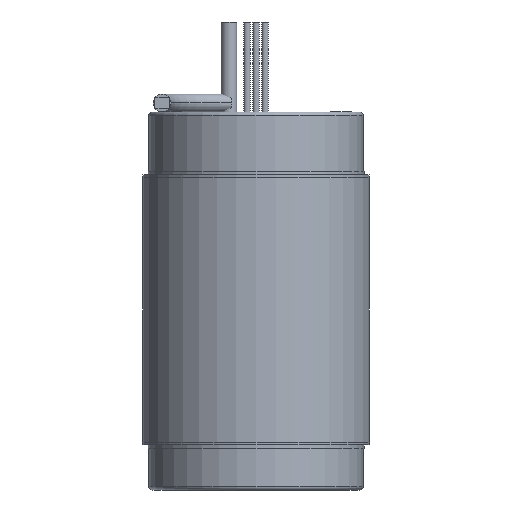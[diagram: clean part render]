
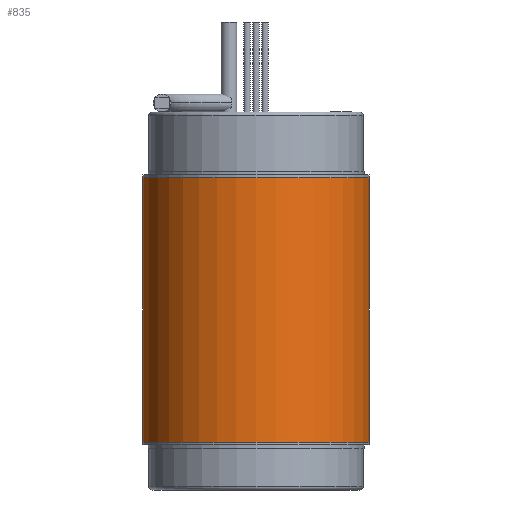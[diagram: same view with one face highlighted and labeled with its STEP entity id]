
A CAD part, front view. The second image highlights one B-rep face of the part: STEP entity #835.
In plain terms, the highlighted cylindrical face has radius 16.002 mm (diameter 32.004 mm), a partial arc.
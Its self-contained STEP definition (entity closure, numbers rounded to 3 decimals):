
#94 = LINE ( 'NONE', #2121, #444 ) ;
#134 = CARTESIAN_POINT ( 'NONE',  ( 0., 0., -19.558 ) ) ;
#168 = FACE_OUTER_BOUND ( 'NONE', #2551, .T. ) ;
#297 = DIRECTION ( 'NONE',  ( 0., 0., 1. ) ) ;
#444 = VECTOR ( 'NONE', #1219, 1000. ) ;
#486 = LINE ( 'NONE', #1669, #2044 ) ;
#517 = EDGE_CURVE ( 'NONE', #593, #2677, #486, .T. ) ;
#557 = EDGE_CURVE ( 'NONE', #2432, #1763, #94, .T. ) ;
#584 = DIRECTION ( 'NONE',  ( 0., 0., 1. ) ) ;
#593 = VERTEX_POINT ( 'NONE', #2386 ) ;
#666 = CIRCLE ( 'NONE', #2940, 16.002 ) ;
#679 = ORIENTED_EDGE ( 'NONE', *, *, #517, .T. ) ;
#746 = ORIENTED_EDGE ( 'NONE', *, *, #2910, .T. ) ;
#835 = ADVANCED_FACE ( 'NONE', ( #168 ), #918, .T. ) ;
#836 = DIRECTION ( 'NONE',  ( 1., 0., 0. ) ) ;
#882 = DIRECTION ( 'NONE',  ( 0., 0., 1. ) ) ;
#909 = DIRECTION ( 'NONE',  ( 0., 0., 1. ) ) ;
#918 = CYLINDRICAL_SURFACE ( 'NONE', #2527, 16.002 ) ;
#966 = AXIS2_PLACEMENT_3D ( 'NONE', #2285, #909, #836 ) ;
#1108 = CARTESIAN_POINT ( 'NONE',  ( 0., 0., 18.694 ) ) ;
#1219 = DIRECTION ( 'NONE',  ( 0., 0., 1. ) ) ;
#1361 = DIRECTION ( 'NONE',  ( 1., 0., 0. ) ) ;
#1382 = CIRCLE ( 'NONE', #966, 16.002 ) ;
#1396 = ORIENTED_EDGE ( 'NONE', *, *, #2451, .F. ) ;
#1609 = CARTESIAN_POINT ( 'NONE',  ( -16.002, 0., 18.694 ) ) ;
#1669 = CARTESIAN_POINT ( 'NONE',  ( 16.002, 0., -19.558 ) ) ;
#1763 = VERTEX_POINT ( 'NONE', #1609 ) ;
#2044 = VECTOR ( 'NONE', #297, 1000. ) ;
#2121 = CARTESIAN_POINT ( 'NONE',  ( -16.002, 0., -19.558 ) ) ;
#2285 = CARTESIAN_POINT ( 'NONE',  ( 0., 0., -18.694 ) ) ;
#2386 = CARTESIAN_POINT ( 'NONE',  ( 16.002, 0., -18.694 ) ) ;
#2432 = VERTEX_POINT ( 'NONE', #2731 ) ;
#2451 = EDGE_CURVE ( 'NONE', #1763, #2677, #666, .T. ) ;
#2527 = AXIS2_PLACEMENT_3D ( 'NONE', #134, #584, #2653 ) ;
#2551 = EDGE_LOOP ( 'NONE', ( #2681, #746, #679, #1396 ) ) ;
#2653 = DIRECTION ( 'NONE',  ( 1., 0., 0. ) ) ;
#2677 = VERTEX_POINT ( 'NONE', #2795 ) ;
#2681 = ORIENTED_EDGE ( 'NONE', *, *, #557, .F. ) ;
#2731 = CARTESIAN_POINT ( 'NONE',  ( -16.002, 0., -18.694 ) ) ;
#2795 = CARTESIAN_POINT ( 'NONE',  ( 16.002, 0., 18.694 ) ) ;
#2910 = EDGE_CURVE ( 'NONE', #2432, #593, #1382, .T. ) ;
#2940 = AXIS2_PLACEMENT_3D ( 'NONE', #1108, #882, #1361 ) ;
